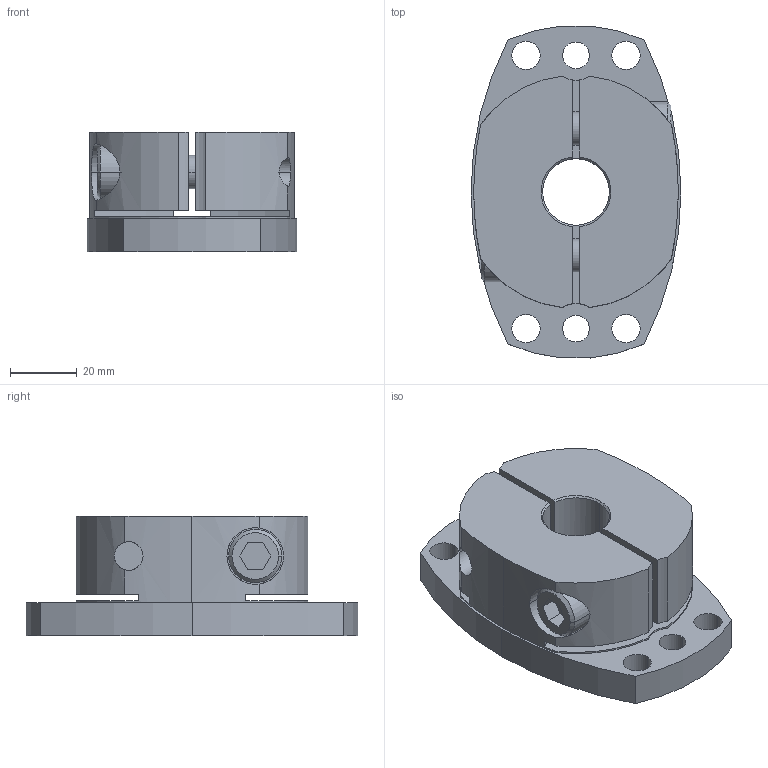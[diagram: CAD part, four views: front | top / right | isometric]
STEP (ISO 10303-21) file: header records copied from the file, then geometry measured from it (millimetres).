
FILE_DESCRIPTION((''),'2;1');
FILE_NAME('SHDB-100B-20.stp','2026-01-28T08:38:03',(''),(''),'AutoCAD STEP 2000i','AutoCAD 2000i',', , ');
FILE_SCHEMA(('CONFIG_CONTROL_DESIGN'));
Length unit declared in the file: millimetre
Products named in the file (2): SHDB-100B-20; 忣兜1
Assembly tree (1 placements, depth 2):
  SHDB-100B-20
    忣兜1
Bounding box: 63 x 99.64 x 36 mm (x, y, z)
Volume: 123354.3 mm3; surface area: 30808 mm2
Topology: 1 solids, 1 shells, 102 faces, 280 edges, 184 vertices
Faces by surface type: cylinder 58, plane 34, cone 10
Entity records: 3723 total; most frequent: CARTESIAN_POINT 896, DIRECTION 602, ORIENTED_EDGE 560, EDGE_CURVE 280, AXIS2_PLACEMENT_3D 238, VERTEX_POINT 184, CIRCLE 134, VECTOR 126
